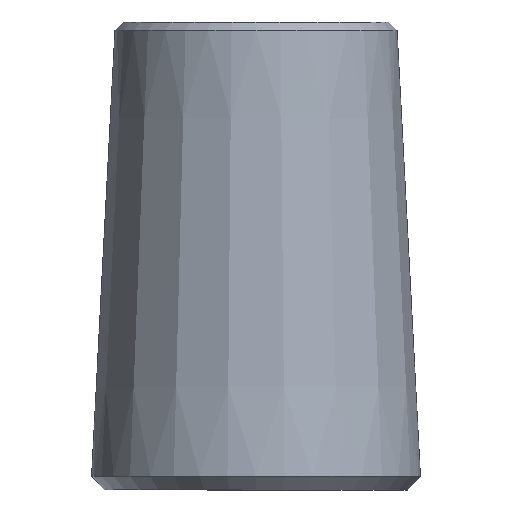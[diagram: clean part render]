
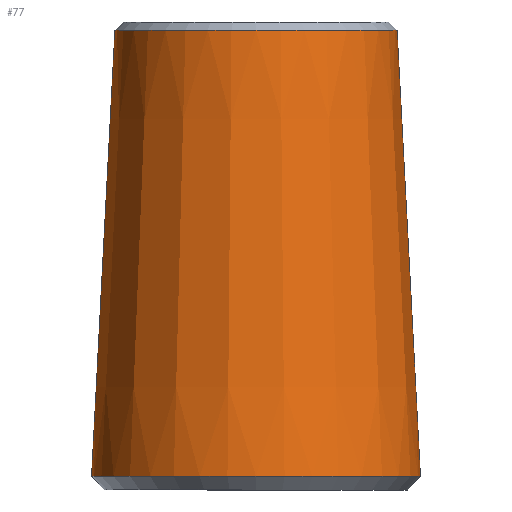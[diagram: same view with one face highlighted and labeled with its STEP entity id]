
A CAD part, left-side view. The second image highlights one B-rep face of the part: STEP entity #77.
In plain terms, the highlighted conical face has half-angle 3 degrees and reference radius 5.554 mm.
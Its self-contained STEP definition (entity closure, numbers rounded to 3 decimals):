
#20=FACE_BOUND('',#34,.T.);
#25=FACE_OUTER_BOUND('',#33,.T.);
#33=EDGE_LOOP('',(#63));
#34=EDGE_LOOP('',(#64));
#44=CIRCLE('',#87,5.974);
#45=CIRCLE('',#89,5.125);
#50=VERTEX_POINT('',#130);
#51=VERTEX_POINT('',#133);
#56=EDGE_CURVE('',#50,#50,#44,.T.);
#57=EDGE_CURVE('',#51,#51,#45,.T.);
#63=ORIENTED_EDGE('',*,*,#57,.F.);
#64=ORIENTED_EDGE('',*,*,#56,.F.);
#74=CONICAL_SURFACE('',#88,5.555,3.);
#77=ADVANCED_FACE('',(#25,#20),#74,.T.);
#87=AXIS2_PLACEMENT_3D('',#131,#104,#105);
#88=AXIS2_PLACEMENT_3D('',#132,#106,#107);
#89=AXIS2_PLACEMENT_3D('',#134,#108,#109);
#104=DIRECTION('center_axis',(0.,0.,
-1.));
#105=DIRECTION('ref_axis',(0.,1.,0.));
#106=DIRECTION('center_axis',(0.,0.,-1.));
#107=DIRECTION('ref_axis',(0.,-1.,0.));
#108=DIRECTION('center_axis',(0.,0.,1.));
#109=DIRECTION('ref_axis',(0.,1.,0.));
#130=CARTESIAN_POINT('',(0.,-5.974,0.499));
#131=CARTESIAN_POINT('Origin',(0.,0.,0.499));
#132=CARTESIAN_POINT('Origin',(0.,0.,8.5));
#133=CARTESIAN_POINT('',(0.,-5.125,16.7));
#134=CARTESIAN_POINT('Origin',(0.,0.,
16.7));
